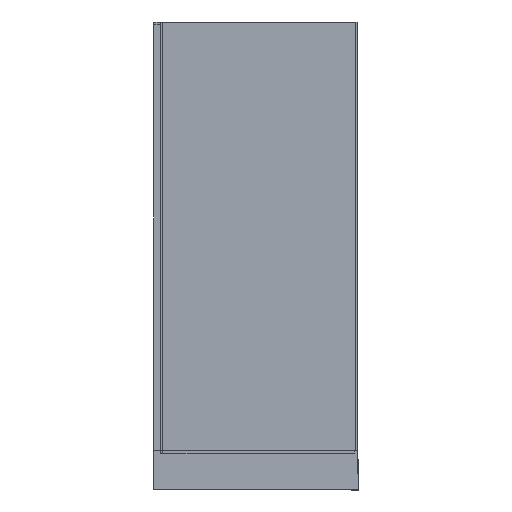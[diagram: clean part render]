
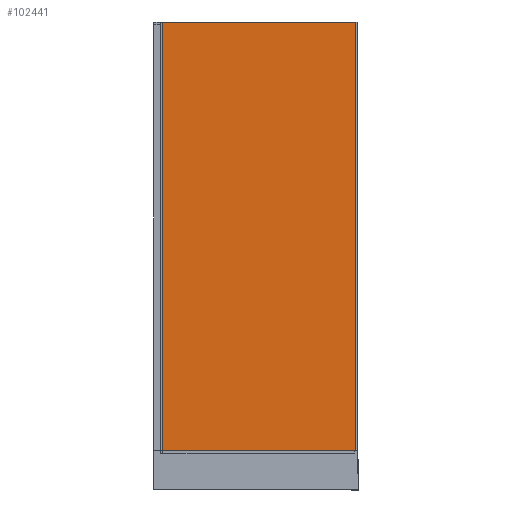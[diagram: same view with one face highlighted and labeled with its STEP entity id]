
A CAD part, left-side view. The second image highlights one B-rep face of the part: STEP entity #102441.
In plain terms, the highlighted free-form (B-spline) face has degree [1, 1] with [2, 2] control points.
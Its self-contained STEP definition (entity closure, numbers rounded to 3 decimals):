
#102080=CARTESIAN_POINT('',(-899.187,-888.39,168.06));
#102081=VERTEX_POINT('',#102080);
#102082=CARTESIAN_POINT('',(-899.187,-894.39,174.06));
#102083=VERTEX_POINT('',#102082);
#102084=CARTESIAN_POINT('',(-899.187,-888.39,168.06));
#102085=CARTESIAN_POINT('',(-899.187,-888.39,174.06));
#102086=CARTESIAN_POINT('',(-899.187,-894.39,174.06));
#102094=(BOUNDED_CURVE()B_SPLINE_CURVE(2,(#102084,#102085,#102086),.UNSPECIFIED.,.F.,.U.)CURVE()GEOMETRIC_REPRESENTATION_ITEM()QUASI_UNIFORM_CURVE()RATIONAL_B_SPLINE_CURVE((1.0,0.707,1.0))REPRESENTATION_ITEM(''));
#102095=EDGE_CURVE('',#102081,#102083,#102094,.T.);
#102136=CARTESIAN_POINT('',(-899.187,-888.39,163.06));
#102137=VERTEX_POINT('',#102136);
#102151=CARTESIAN_POINT('',(-899.187,-888.39,163.06));
#102152=DIRECTION('',(0.0,0.0,1.0));
#102153=VECTOR('',#102152,5.);
#102154=LINE('',#102151,#102153);
#102155=EDGE_CURVE('',#102137,#102081,#102154,.T.);
#102402=CARTESIAN_POINT('',(-899.187,-894.509,162.941));
#102403=CARTESIAN_POINT('',(-899.187,-894.509,2063.178));
#102404=CARTESIAN_POINT('',(-899.187,-43.293,162.941));
#102405=CARTESIAN_POINT('',(-899.187,-43.293,2063.178));
#102406=B_SPLINE_SURFACE_WITH_KNOTS('',1,1,((#102402,#102404),(#102403,#102405)),.UNSPECIFIED.,.F.,.F.,.U.,(2,2),(2,2),(1.237,1901.474),(8.711,859.926),.UNSPECIFIED.);
#102407=CARTESIAN_POINT('',(-899.187,-43.412,163.06));
#102408=VERTEX_POINT('',#102407);
#102409=CARTESIAN_POINT('',(-899.187,-43.412,163.06));
#102410=DIRECTION('',(0.,-1.,0.0));
#102411=VECTOR('',#102410,844.978);
#102412=LINE('',#102409,#102411);
#102413=EDGE_CURVE('',#102408,#102137,#102412,.T.);
#102414=ORIENTED_EDGE('',*,*,#102413,.T.);
#102415=ORIENTED_EDGE('',*,*,#102155,.T.);
#102416=ORIENTED_EDGE('',*,*,#102095,.T.);
#102417=CARTESIAN_POINT('',(-899.187,-894.39,2063.06));
#102418=VERTEX_POINT('',#102417);
#102419=CARTESIAN_POINT('',(-899.187,-894.39,174.06));
#102420=DIRECTION('',(0.0,0.0,1.0));
#102421=VECTOR('',#102420,1889.);
#102422=LINE('',#102419,#102421);
#102423=EDGE_CURVE('',#102083,#102418,#102422,.T.);
#102424=ORIENTED_EDGE('',*,*,#102423,.T.);
#102425=CARTESIAN_POINT('',(-899.187,-43.412,2063.06));
#102426=VERTEX_POINT('',#102425);
#102427=CARTESIAN_POINT('',(-899.187,-894.39,2063.06));
#102428=DIRECTION('',(0.,1.,0.0));
#102429=VECTOR('',#102428,850.978);
#102430=LINE('',#102427,#102429);
#102431=EDGE_CURVE('',#102418,#102426,#102430,.T.);
#102432=ORIENTED_EDGE('',*,*,#102431,.T.);
#102433=CARTESIAN_POINT('',(-899.187,-43.412,2063.06));
#102434=DIRECTION('',(0.0,0.0,-1.0));
#102435=VECTOR('',#102434,1900.0);
#102436=LINE('',#102433,#102435);
#102437=EDGE_CURVE('',#102426,#102408,#102436,.T.);
#102438=ORIENTED_EDGE('',*,*,#102437,.T.);
#102439=EDGE_LOOP('',(#102414,#102415,#102416,#102424,#102432,#102438));
#102440=FACE_OUTER_BOUND('',#102439,.T.);
#102441=ADVANCED_FACE('',(#102440),#102406,.T.);
